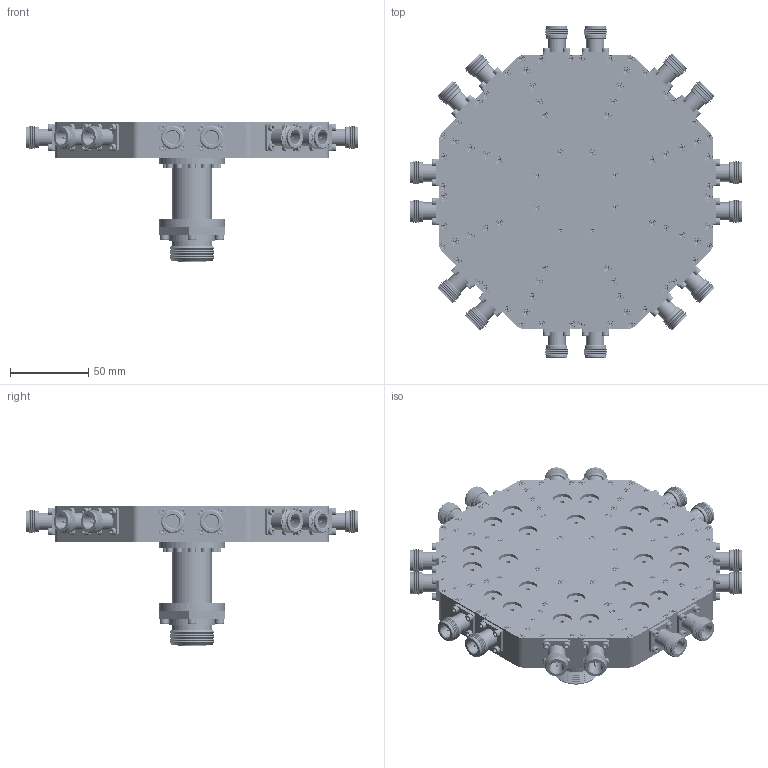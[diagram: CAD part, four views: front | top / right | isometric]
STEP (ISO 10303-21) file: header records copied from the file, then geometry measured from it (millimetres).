
FILE_DESCRIPTION(/* description */ ('Unknown'),/* implementation_level */ '2;1');
FILE_NAME(/* name */ 'DETI_MICROWAVE_NARROW_BAND_COMBINER_001609_STEP',/* time_stamp */ '2021-06-14T14:27:47+02:00',/* author */ ('ALG'),/* organization */ ('DETI'),/* preprocessor_version */ 'ST-DEVELOPER v16.7',/* originating_system */ 'Solid Edge',/* authorisation */ 'Unknown');
FILE_SCHEMA (('AUTOMOTIVE_DESIGN {1 0 10303 214 3 1 1}'));
Products named in the file (1): Asm4 pour step online2
Bounding box: 211.59 x 211.59 x 89.2 mm (x, y, z)
Volume: 616050.5 mm3; surface area: 138255.4 mm2
Topology: 1 solids, 335 shells, 5966 faces, 14388 edges, 9446 vertices
Faces by surface type: plane 3898, cylinder 1047, cone 709, torus 309, bspline 3
Full cylindrical faces by diameter (mm): 1.27 x32, 1.633 x1, 2.013 x156, 2.459 x28, 2.5 x156, 2.7 x92, 3 x5, 3.2 x64, 3.5 x4, 4.1 x14, 4.5 x76, 4.6 x1, 4.7 x80, 5.5 x4, 6.7 x1, 7.6 x16, 8.61 x16, 11.4 x16, 12 x24, 12.4 x16, 13.8 x80, 15 x64, 16 x2, 17.9 x1, 22 x1, 22.55 x1, 25 x2, 26 x1, 27.2 x1, 28.8 x1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
Entity records: 197195 total; most frequent: CARTESIAN_POINT 27996, DIRECTION 25806, ORIENTED_EDGE 23182, EDGE_CURVE 11591, AXIS2_PLACEMENT_3D 8807, FACE_BOUND 8714, VERTEX_POINT 8689, EDGE_LOOP 8622
